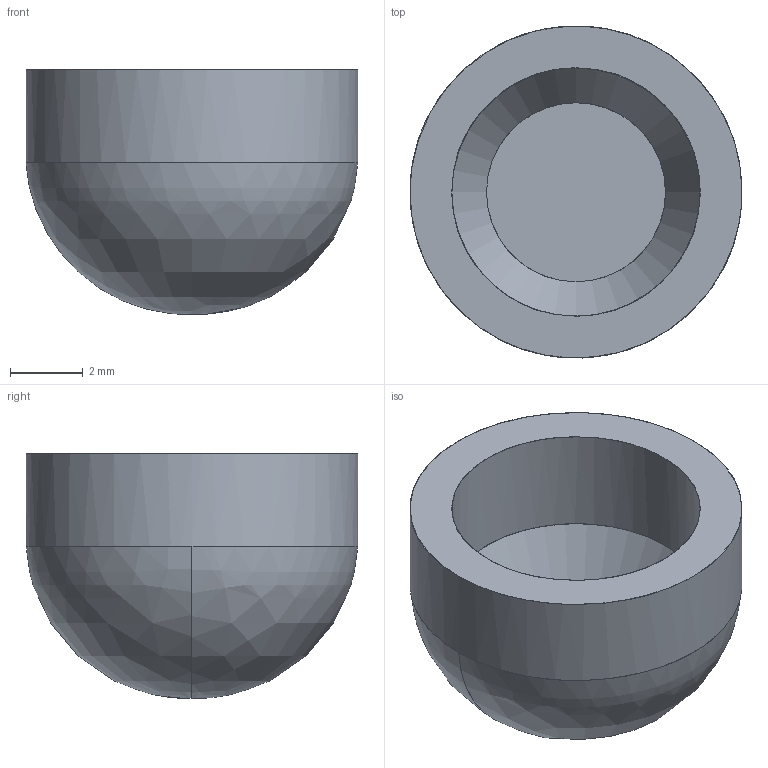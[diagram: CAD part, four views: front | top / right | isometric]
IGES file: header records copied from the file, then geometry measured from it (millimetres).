
Global section: file name: E:\M1337\M1337 Remodel\Metric\Clutch\IGES Files\Sight Detent Metric.igs; native system: NX V2007; preprocessor: SIEMENS PLM Software NX 2027; date: 20260820.185159; units: millimetre
Bounding box: 9.13 x 9.13 x 6.73 mm (x, y, z)
Surface area: 341.7 mm2 (no closed solid volume)
Topology: 0 solids, 0 shells, 6 faces, 49 edges, 59 vertices
Faces by surface type: bspline 6
